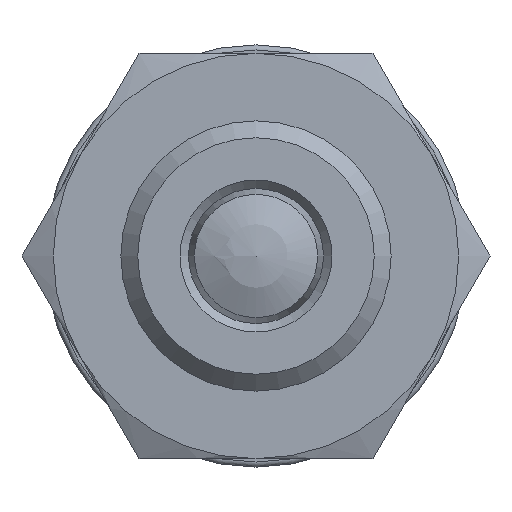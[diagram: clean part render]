
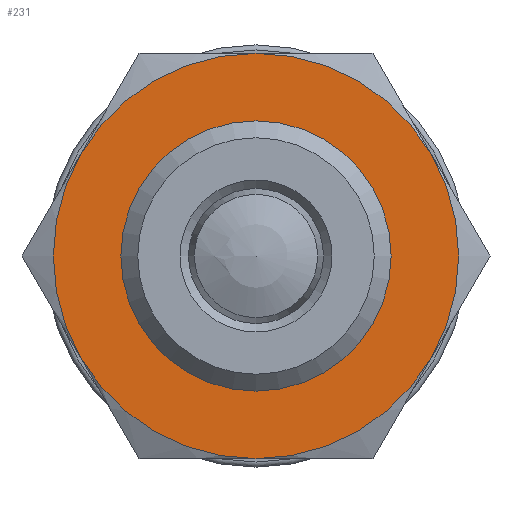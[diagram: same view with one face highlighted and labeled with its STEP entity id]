
A CAD part, front view. The second image highlights one B-rep face of the part: STEP entity #231.
In plain terms, the highlighted planar face has unit normal (0, -1, 0).
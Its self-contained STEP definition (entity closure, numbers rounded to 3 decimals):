
#231 = ADVANCED_FACE( '', ( #419, #420 ), #421, .F. );
#419 = FACE_BOUND( '', #651, .T. );
#420 = FACE_OUTER_BOUND( '', #652, .T. );
#421 = PLANE( '', #653 );
#651 = EDGE_LOOP( '', ( #1133 ) );
#652 = EDGE_LOOP( '', ( #1134, #1135, #1136, #1137, #1138, #1139 ) );
#653 = AXIS2_PLACEMENT_3D( '', #1140, #1141, #1142 );
#1133 = ORIENTED_EDGE( '', *, *, #1387, .F. );
#1134 = ORIENTED_EDGE( '', *, *, #1405, .T. );
#1135 = ORIENTED_EDGE( '', *, *, #1406, .T. );
#1136 = ORIENTED_EDGE( '', *, *, #1407, .T. );
#1137 = ORIENTED_EDGE( '', *, *, #1366, .T. );
#1138 = ORIENTED_EDGE( '', *, *, #1377, .T. );
#1139 = ORIENTED_EDGE( '', *, *, #1404, .T. );
#1140 = CARTESIAN_POINT( '', ( 12., 6., 0. ) );
#1141 = DIRECTION( '', ( 0., 1., 0. ) );
#1142 = DIRECTION( '', ( 0., 0., 1. ) );
#1366 = EDGE_CURVE( '', #1559, #1560, #1561, .T. );
#1377 = EDGE_CURVE( '', #1560, #1576, #1578, .T. );
#1387 = EDGE_CURVE( '', #1593, #1593, #1594, .T. );
#1404 = EDGE_CURVE( '', #1576, #1618, #1622, .T. );
#1405 = EDGE_CURVE( '', #1618, #1610, #1623, .T. );
#1406 = EDGE_CURVE( '', #1610, #1615, #1624, .T. );
#1407 = EDGE_CURVE( '', #1615, #1559, #1625, .T. );
#1559 = VERTEX_POINT( '', #1945 );
#1560 = VERTEX_POINT( '', #1946 );
#1561 = CIRCLE( '', #1947, 12. );
#1576 = VERTEX_POINT( '', #1991 );
#1578 = CIRCLE( '', #1998, 12. );
#1593 = VERTEX_POINT( '', #2031 );
#1594 = CIRCLE( '', #2032, 8. );
#1610 = VERTEX_POINT( '', #2062 );
#1615 = VERTEX_POINT( '', #2080 );
#1618 = VERTEX_POINT( '', #2095 );
#1622 = CIRCLE( '', #2114, 12. );
#1623 = CIRCLE( '', #2115, 12. );
#1624 = CIRCLE( '', #2116, 12. );
#1625 = CIRCLE( '', #2117, 12. );
#1945 = CARTESIAN_POINT( '', ( 0., 6., 12. ) );
#1946 = CARTESIAN_POINT( '', ( -10.392, 6., 6. ) );
#1947 = AXIS2_PLACEMENT_3D( '', #2305, #2306, #2307 );
#1991 = CARTESIAN_POINT( '', ( -10.392, 6., -6. ) );
#1998 = AXIS2_PLACEMENT_3D( '', #2320, #2321, #2322 );
#2031 = CARTESIAN_POINT( '', ( 0., 6., -8. ) );
#2032 = AXIS2_PLACEMENT_3D( '', #2335, #2336, #2337 );
#2062 = CARTESIAN_POINT( '', ( 10.392, 6., -6. ) );
#2080 = CARTESIAN_POINT( '', ( 10.392, 6., 6. ) );
#2095 = CARTESIAN_POINT( '', ( 0., 6., -12. ) );
#2114 = AXIS2_PLACEMENT_3D( '', #2353, #2354, #2355 );
#2115 = AXIS2_PLACEMENT_3D( '', #2356, #2357, #2358 );
#2116 = AXIS2_PLACEMENT_3D( '', #2359, #2360, #2361 );
#2117 = AXIS2_PLACEMENT_3D( '', #2362, #2363, #2364 );
#2305 = CARTESIAN_POINT( '', ( 0., 6., 0. ) );
#2306 = DIRECTION( '', ( 0., -1., 0. ) );
#2307 = DIRECTION( '', ( 0., 0., -1. ) );
#2320 = CARTESIAN_POINT( '', ( 0., 6., 0. ) );
#2321 = DIRECTION( '', ( 0., -1., 0. ) );
#2322 = DIRECTION( '', ( 0., 0., -1. ) );
#2335 = CARTESIAN_POINT( '', ( 0., 6., 0. ) );
#2336 = DIRECTION( '', ( 0., -1., 0. ) );
#2337 = DIRECTION( '', ( 0., 0., -1. ) );
#2353 = CARTESIAN_POINT( '', ( 0., 6., 0. ) );
#2354 = DIRECTION( '', ( 0., -1., 0. ) );
#2355 = DIRECTION( '', ( 0., 0., -1. ) );
#2356 = CARTESIAN_POINT( '', ( 0., 6., 0. ) );
#2357 = DIRECTION( '', ( 0., -1., 0. ) );
#2358 = DIRECTION( '', ( 0., 0., -1. ) );
#2359 = CARTESIAN_POINT( '', ( 0., 6., 0. ) );
#2360 = DIRECTION( '', ( 0., -1., 0. ) );
#2361 = DIRECTION( '', ( 0., 0., -1. ) );
#2362 = CARTESIAN_POINT( '', ( 0., 6., 0. ) );
#2363 = DIRECTION( '', ( 0., -1., 0. ) );
#2364 = DIRECTION( '', ( 0., 0., -1. ) );
